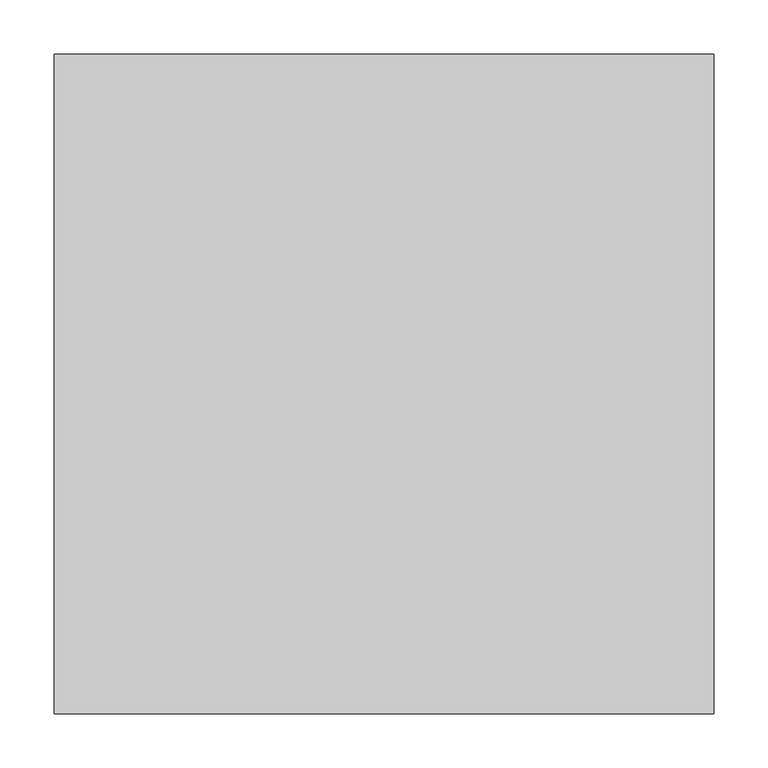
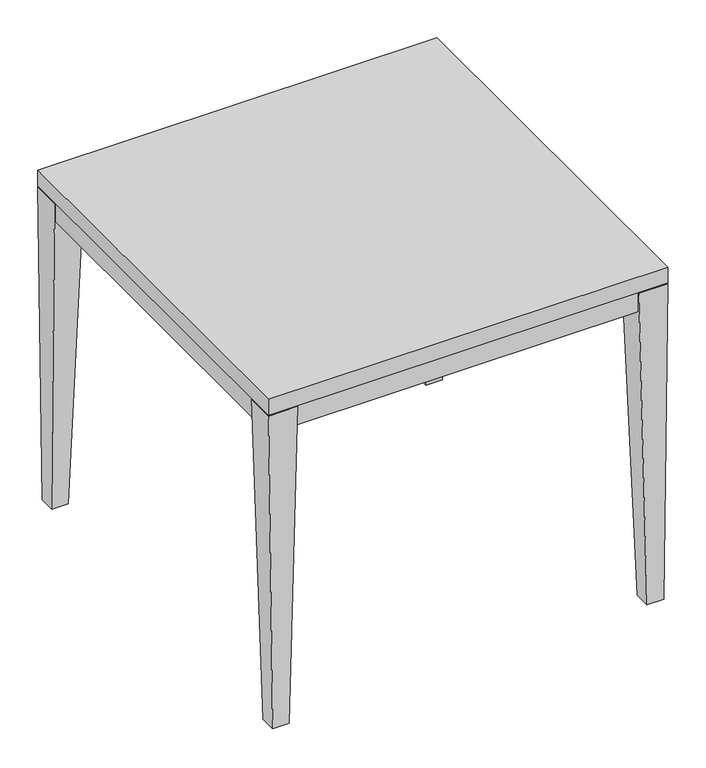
"""IFC4 building model written with IfcOpenShell, lengths in millimetres: furniture geometry, Steelcase Coalesse - Passerelle - Table : 24D x 24W x 21H."""

import ifcopenshell
import ifcopenshell.guid

model = None  # the IFC model being written
_history = None  # IfcOwnerHistory: only IFC2X3 demands one
_inside = {}  # id of a spatial element -> (the spatial element, [elements in it])
_under = {}  # id of a project, library or spatial element -> (it, [spatial elements below it])
_declared = {}  # id of a project -> (the project, [libraries it declares])
_typed = {}  # id of a type object -> (the type object, [elements of that type])
_made_of = {}  # id of a material, layer set ... -> (it, [elements and type objects made of it])


def new_model(schema):
    """Start an empty IFC model of exactly this schema.

    Asked for "IFC4X3", IfcOpenShell would pick the latest addendum, in which some entities
    have other attributes; the version numbers below select the first issue.
    IFC2X3 requires an IfcOwnerHistory on every rooted entity: one is made here for all.
    """
    global model, _history
    if schema == "IFC4X3":
        model = ifcopenshell.file(schema_version=(4, 3, 0, 0))
    else:
        model = ifcopenshell.file(schema=schema)
    _inside.clear()
    _under.clear()
    _declared.clear()
    _typed.clear()
    _made_of.clear()
    _history = None
    if model.schema == "IFC2X3":
        org = make("IfcOrganization", Name="unknown")
        user = make(
            "IfcPersonAndOrganization",
            ThePerson=make("IfcPerson", FamilyName="unknown"),
            TheOrganization=org,
        )
        app = make(
            "IfcApplication",
            ApplicationDeveloper=org,
            Version="unknown",
            ApplicationFullName="unknown",
            ApplicationIdentifier="unknown",
        )
        _history = make(
            "IfcOwnerHistory",
            OwningUser=user,
            OwningApplication=app,
            ChangeAction="ADDED",
            CreationDate=0,
        )
    return model


def make(cls, **values):
    """One entity of the class cls with the attributes given. An attribute that is None is left unset."""
    return model.create_entity(
        cls, **{name: value for name, value in values.items() if value is not None}
    )


def rooted(cls, **values):
    """An entity with a GlobalId (a new one), such as an element, a storey or a relation."""
    return make(cls, GlobalId=ifcopenshell.guid.new(), OwnerHistory=_history, **values)


def si_unit(unit_type, name, prefix=None):
    """IfcSIUnit, for example si_unit("LENGTHUNIT", "METRE", prefix="MILLI")."""
    return make("IfcSIUnit", UnitType=unit_type, Prefix=prefix, Name=name)


def assignment(units):
    """IfcUnitAssignment: the units of a project."""
    return None if units is None else make("IfcUnitAssignment", Units=units)


def point(xyz):
    """IfcCartesianPoint."""
    return None if xyz is None else make("IfcCartesianPoint", Coordinates=xyz)


def direction(xyz):
    """IfcDirection."""
    return None if xyz is None else make("IfcDirection", DirectionRatios=xyz)


def frame(location, z_axis=None, x_axis=None):
    """IfcAxis2Placement3D, a coordinate frame: its origin and axes. An axis left out is left unset."""
    return make(
        "IfcAxis2Placement3D",
        Location=point(location),
        Axis=direction(z_axis),
        RefDirection=direction(x_axis),
    )


def origin():
    """The frame at (0, 0, 0) with its axes left unset."""
    return frame((0.0, 0.0, 0.0))


def place(relative_to, where):
    """IfcLocalPlacement: puts the frame where relative to a parent placement (None: the world)."""
    return make(
        "IfcLocalPlacement", PlacementRelTo=relative_to, RelativePlacement=where
    )


def context(
    kind, dimensions, precision=None, world=None, true_north=None, identifier=None
):
    """IfcGeometricRepresentationContext, for example the 3D "Model" context."""
    return make(
        "IfcGeometricRepresentationContext",
        ContextIdentifier=identifier,
        ContextType=kind,
        CoordinateSpaceDimension=dimensions,
        Precision=precision,
        WorldCoordinateSystem=world,
        TrueNorth=true_north,
    )


def project(units=None, contexts=None):
    """IfcProject with its units and contexts."""
    return rooted(
        "IfcProject",
        Name="project",
        RepresentationContexts=contexts,
        UnitsInContext=assignment(units),
    )


def spatial(cls, under=None, at=None, **own):
    """A site, building, storey or space (cls), placed at a placement, below another one or the project."""
    s = rooted(cls, ObjectPlacement=at, **own)
    if under is not None:
        _under.setdefault(under.id(), (under, []))[1].append(s)
    return s


def faces_of(points, faces, orient=None, outer=None):
    """IfcFace entities. A face is a list of loops; a loop is a list of indices into points, from 0.

    orient and outer hold one flag for each loop. By default every Orientation is true, the
    first loop of a face is its IfcFaceOuterBound and the others are IfcFaceBound.
    """
    made = []
    for i, loops in enumerate(faces):
        bounds = []
        for j, loop in enumerate(loops):
            is_outer = j == 0 if outer is None else outer[i][j]
            bounds.append(
                make(
                    "IfcFaceOuterBound" if is_outer else "IfcFaceBound",
                    Bound=make("IfcPolyLoop", Polygon=[points[k] for k in loop]),
                    Orientation=True if orient is None else orient[i][j],
                )
            )
        made.append(make("IfcFace", Bounds=bounds))
    return made


def faceted_brep(points, faces, orient=None, outer=None, voids=None):
    """IfcFacetedBrep: a solid bounded by flat faces; with voids (closed shells), ...WithVoids."""
    shared = [point(p) for p in points]
    hull = make("IfcClosedShell", CfsFaces=faces_of(shared, faces, orient, outer))
    if voids is None:
        return make("IfcFacetedBrep", Outer=hull)
    return make(
        "IfcFacetedBrepWithVoids",
        Outer=hull,
        Voids=[
            make(cls, CfsFaces=faces_of(shared, fs, o, b)) for cls, fs, o, b in voids
        ],
    )


def shape(context_of_items, identifier, shape_type, items):
    """IfcShapeRepresentation: the items that make up one representation, for example the "Body"."""
    return make(
        "IfcShapeRepresentation",
        ContextOfItems=context_of_items,
        RepresentationIdentifier=identifier,
        RepresentationType=shape_type,
        Items=items,
    )


def source(mapping_origin, context_of_items, identifier, shape_type, items):
    """IfcRepresentationMap: a shape defined once, which mapped items show again and again."""
    return make(
        "IfcRepresentationMap",
        MappingOrigin=mapping_origin,
        MappedRepresentation=shape(context_of_items, identifier, shape_type, items),
    )


def transform(
    local_origin,
    x_axis=None,
    y_axis=None,
    z_axis=None,
    scale=None,
    scale2=None,
    scale3=None,
    uniform=True,
):
    """IfcCartesianTransformationOperator3D, or its non-uniform kind. x_axis, y_axis, z_axis: its Axis1, 2, 3."""
    if uniform:
        return make(
            "IfcCartesianTransformationOperator3D",
            Axis1=direction(x_axis),
            Axis2=direction(y_axis),
            LocalOrigin=point(local_origin),
            Scale=scale,
            Axis3=direction(z_axis),
        )
    return make(
        "IfcCartesianTransformationOperator3DnonUniform",
        Axis1=direction(x_axis),
        Axis2=direction(y_axis),
        LocalOrigin=point(local_origin),
        Scale=scale,
        Axis3=direction(z_axis),
        Scale2=scale2,
        Scale3=scale3,
    )


def mapped(mapping_source, mapping_target):
    """IfcMappedItem: shows the shape of a source again, moved by a transform."""
    return make(
        "IfcMappedItem", MappingSource=mapping_source, MappingTarget=mapping_target
    )


def made_of(thing, what):
    """Note that an element or type object is made of a material, layer set ...; save() writes the relation."""
    if what is not None:
        _made_of.setdefault(what.id(), (what, []))[1].append(thing)
    return thing


def element(
    cls,
    number,
    at=None,
    inside=None,
    cuts=None,
    type_object=None,
    material=None,
    context=None,
    identifier="Body",
    shape_type=None,
    held_by="IfcProductDefinitionShape",
    body=None,
    shapes=None,
    **own,
):
    """One element of the class cls, such as IfcWall. Its Tag is "e" and its number.

    at: its placement. inside: the storey or other place that contains it. cuts: it is an
    opening in that element (IfcRelVoidsElement). A single representation is given by context,
    identifier, shape_type and body (its items); several are given by shapes. held_by: the class
    of the entity that holds the representations. save() writes the other relations.
    """
    e = rooted(cls, Tag="e%d" % number, ObjectPlacement=at, **own)
    if body is not None:
        shapes = [shape(context, identifier, shape_type, body)]
    if shapes is not None:
        e.Representation = make(held_by, Representations=shapes)
    if inside is not None:
        _inside.setdefault(inside.id(), (inside, []))[1].append(e)
    if cuts is not None:
        rooted(
            "IfcRelVoidsElement", RelatingBuildingElement=cuts, RelatedOpeningElement=e
        )
    if type_object is not None:
        _typed.setdefault(type_object.id(), (type_object, []))[1].append(e)
    return made_of(e, material)


def aggregate(whole, parts):
    """IfcRelAggregates: a whole, such as a stair, and the parts it consists of."""
    return rooted("IfcRelAggregates", RelatingObject=whole, RelatedObjects=parts)


def save(model, path):
    """Write the relations noted so far, then the file.

    IfcRelAggregates (storeys below a building ...), IfcRelContainedInSpatialStructure (elements
    in a storey), IfcRelDefinesByType, IfcRelAssociatesMaterial and IfcRelDeclares: one each for
    every whole, place, type object, material and project.
    """
    for whole, parts in _under.values():
        aggregate(whole, parts)
    for where, things in _inside.values():
        rooted(
            "IfcRelContainedInSpatialStructure",
            RelatedElements=things,
            RelatingStructure=where,
        )
    for kind, things in _typed.values():
        rooted("IfcRelDefinesByType", RelatedObjects=things, RelatingType=kind)
    for what, things in _made_of.values():
        rooted("IfcRelAssociatesMaterial", RelatedObjects=things, RelatingMaterial=what)
    for by, libraries in _declared.values():
        rooted("IfcRelDeclares", RelatingContext=by, RelatedDefinitions=libraries)
    model.write(path)


def furniture_44acf5a9(model_context):
    return source(origin(), model_context, "Body", "Brep", [
        faceted_brep([(609.6, -609.6, 533.4), (609.6, -609.6, 508.0000242), (609.6, 0.0, 508.0000242), (609.6, 0.0, 533.4), (0.0, -609.6, 533.4), (0.0, 0.0, 533.4), (0.0, 0.0, 508.0000242), (0.0, -609.6, 508.0000242), (44.4501938, -44.4499758, 508.0000242), (1.5876938, -44.4499758, 508.0000242), (1.5876938, -565.1500242, 508.0000242), (44.4501938, -565.1500242, 508.0000242), (44.4501938, -608.0125, 508.0000242), (565.1498062, -608.0125, 508.0000242), (565.1498062, -565.1500242, 508.0000242), (608.0123062, -565.1500242, 508.0000242), (608.0123062, -44.4499758, 508.0000242), (565.1498062, -44.4499758, 508.0000242), (565.1498062, -1.5874758, 508.0000242), (44.4501938, -1.5874758, 508.0000242), (44.4501938, -44.4499758, 476.25), (44.4501938, -1.5874758, 476.25), (565.1498062, -1.5874758, 476.25), (565.1498062, -44.4499758, 476.25), (608.0123062, -44.4499758, 476.25), (608.0123062, -565.1500242, 476.25), (565.1498062, -565.1500242, 476.25), (565.1498062, -608.0125, 476.25), (44.4501938, -608.0125, 476.25), (44.4501938, -565.1500242, 476.25), (1.5876938, -565.1500242, 476.25), (1.5876938, -44.4499758, 476.25)], [[[0, 1, 2, 3]], [[4, 5, 6, 7]], [[1, 0, 4, 7]], [[2, 1, 7, 6], [8, 9, 10, 11, 12, 13, 14, 15, 16, 17, 18, 19]], [[3, 2, 6, 5]], [[0, 3, 5, 4]], [[20, 21, 22, 23, 24, 25, 26, 27, 28, 29, 30, 31]], [[20, 31, 9, 8]], [[31, 30, 10, 9]], [[30, 29, 11, 10]], [[29, 28, 12, 11]], [[28, 27, 13, 12]], [[27, 26, 14, 13]], [[26, 25, 15, 14]], [[25, 24, 16, 15]], [[24, 23, 17, 16]], [[23, 22, 18, 17]], [[22, 21, 19, 18]], [[21, 20, 8, 19]]]),
        faceted_brep([(603.2498062, -584.2, 0.0), (603.2498062, -609.6, 0.0), (577.8501938, -609.6, 0.0), (577.8501938, -584.2, 0.0), (609.6, -565.1500242, 506.4125121), (565.1498062, -565.1500242, 506.4125121), (565.1498062, -609.6, 506.4125121), (609.6, -609.6, 506.4125121)], [[[0, 1, 2, 3]], [[4, 5, 6, 7]], [[4, 7, 1, 0]], [[7, 6, 2, 1]], [[6, 5, 3, 2]], [[5, 4, 0, 3]]]),
        faceted_brep([(6.3501938, -584.2, 0.0), (31.7498062, -584.2, 0.0), (31.7498062, -609.6, 0.0), (6.3501938, -609.6, 0.0), (0.0, -565.1500242, 506.4125121), (0.0, -609.6, 506.4125121), (44.4501938, -609.6, 506.4125121), (44.4501938, -565.1500242, 506.4125121)], [[[0, 1, 2, 3]], [[4, 5, 6, 7]], [[4, 7, 1, 0]], [[7, 6, 2, 1]], [[6, 5, 3, 2]], [[5, 4, 0, 3]]]),
        faceted_brep([(603.2498062, -25.3999758, 0.0), (577.8501938, -25.3999758, 0.0), (577.8501938, 0.0, 0.0), (603.2498062, 0.0, 0.0), (609.6, -44.4499758, 506.4125121), (609.6, 0.0, 506.4125121), (565.1498062, 0.0, 506.4125121), (565.1498062, -44.4499758, 506.4125121)], [[[0, 1, 2, 3]], [[4, 5, 6, 7]], [[4, 7, 1, 0]], [[7, 6, 2, 1]], [[6, 5, 3, 2]], [[5, 4, 0, 3]]]),
        faceted_brep([(6.3501938, -25.3999758, 0.0), (6.3501938, 0.0, 0.0), (31.7498062, 0.0, 0.0), (31.7498062, -25.3999758, 0.0), (0.0, -44.4499758, 506.4125121), (44.4501938, -44.4499758, 506.4125121), (44.4501938, 0.0, 506.4125121), (0.0, 0.0, 506.4125121)], [[[0, 1, 2, 3]], [[4, 5, 6, 7]], [[4, 7, 1, 0]], [[7, 6, 2, 1]], [[6, 5, 3, 2]], [[5, 4, 0, 3]]]),
    ])


if __name__ == "__main__":
    model = new_model("IFC4")
    model_context = context("Model", 3, world=origin())
    ifc_project = project(units=[si_unit("LENGTHUNIT", "METRE", prefix="MILLI")], contexts=[model_context])
    site = spatial("IfcSite", under=ifc_project)
    building = spatial("IfcBuilding", under=site)
    placement = place(None, origin())
    furniture_shape = furniture_44acf5a9(model_context)
    element("IfcFurniture", 1, ObjectType="Steelcase Coalesse - Passerelle - Table : 24D x 24W x 21H", at=placement, inside=building, context=model_context, shape_type="MappedRepresentation", body=[
        mapped(furniture_shape, transform((0.0, 0.0, 0.0), x_axis=(1.0, 0.0, 0.0), y_axis=(0.0, 1.0, 0.0), z_axis=(0.0, 0.0, 1.0))),
    ])
    save(model, "model.ifc")
